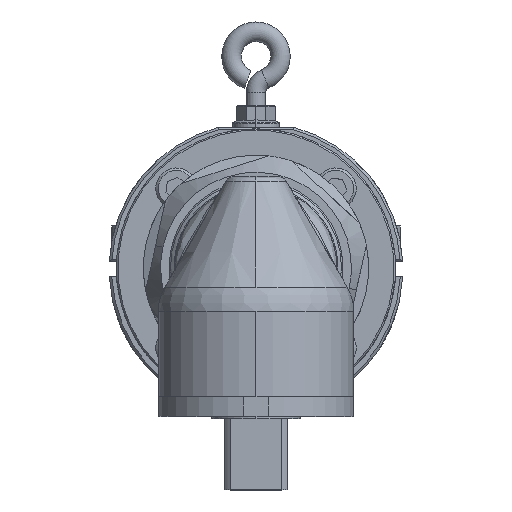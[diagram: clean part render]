
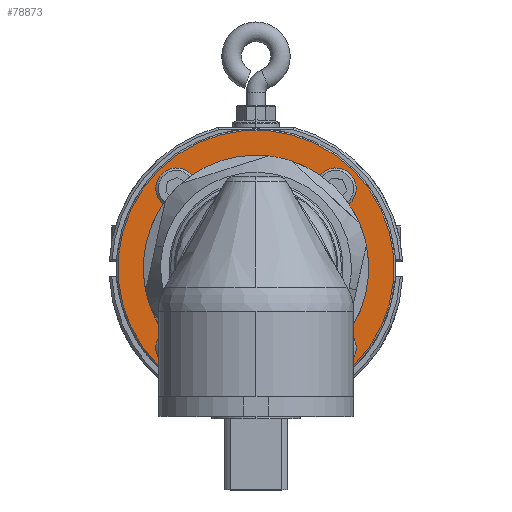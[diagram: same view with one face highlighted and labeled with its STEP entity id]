
A CAD part, top view. The second image highlights one B-rep face of the part: STEP entity #78873.
In plain terms, the highlighted planar face has unit normal (0, 0, 1).
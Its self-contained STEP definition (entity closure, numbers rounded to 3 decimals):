
#372 = CIRCLE ( 'NONE', #72841, 3.05 ) ;
#564 = AXIS2_PLACEMENT_3D ( 'NONE', #2758, #65699, #2201 ) ;
#1866 = DIRECTION ( 'NONE',  ( 0.707, 0.707, 0. ) ) ;
#2135 = DIRECTION ( 'NONE',  ( 0., 0., 1. ) ) ;
#2201 = DIRECTION ( 'NONE',  ( 0.707, 0.707, 0. ) ) ;
#2250 = VERTEX_POINT ( 'NONE', #55962 ) ;
#2758 = CARTESIAN_POINT ( 'NONE',  ( -16.263, -329.485, 256.359 ) ) ;
#3185 = DIRECTION ( 'NONE',  ( 0.707, 0.707, 0. ) ) ;
#4225 = DIRECTION ( 'NONE',  ( 0., 0., 1. ) ) ;
#4297 = PLANE ( 'NONE',  #12771 ) ;
#4667 = CARTESIAN_POINT ( 'NONE',  ( -18.42, -299.114, 256.359 ) ) ;
#5060 = ORIENTED_EDGE ( 'NONE', *, *, #73130, .T. ) ;
#6492 = EDGE_LOOP ( 'NONE', ( #32426, #8664 ) ) ;
#6942 = AXIS2_PLACEMENT_3D ( 'NONE', #21251, #33862, #46767 ) ;
#8664 = ORIENTED_EDGE ( 'NONE', *, *, #34342, .T. ) ;
#9236 = AXIS2_PLACEMENT_3D ( 'NONE', #40698, #4225, #46997 ) ;
#11140 = AXIS2_PLACEMENT_3D ( 'NONE', #60261, #34511, #40852 ) ;
#12300 = CIRCLE ( 'NONE', #564, 3.05 ) ;
#12771 = AXIS2_PLACEMENT_3D ( 'NONE', #35792, #72756, #42138 ) ;
#14483 = DIRECTION ( 'NONE',  ( 0., 0., -1. ) ) ;
#16729 = DIRECTION ( 'NONE',  ( 0., 0., -1. ) ) ;
#16803 = EDGE_CURVE ( 'NONE', #34182, #2250, #33829, .T. ) ;
#17857 = CARTESIAN_POINT ( 'NONE',  ( 19.94, -293.281, 256.359 ) ) ;
#18270 = EDGE_CURVE ( 'NONE', #20317, #64589, #372, .T. ) ;
#20317 = VERTEX_POINT ( 'NONE', #71282 ) ;
#20351 = DIRECTION ( 'NONE',  ( 0.707, 0.707, 0. ) ) ;
#21251 = CARTESIAN_POINT ( 'NONE',  ( -16.263, -296.958, 256.359 ) ) ;
#22829 = EDGE_CURVE ( 'NONE', #77201, #62445, #30913, .T. ) ;
#24248 = DIRECTION ( 'NONE',  ( 0.707, 0.707, 0. ) ) ;
#24505 = FACE_BOUND ( 'NONE', #40279, .T. ) ;
#25852 = DIRECTION ( 'NONE',  ( 0.707, 0.707, 0. ) ) ;
#26036 = VERTEX_POINT ( 'NONE', #69835 ) ;
#26829 = VERTEX_POINT ( 'NONE', #37565 ) ;
#27418 = FACE_OUTER_BOUND ( 'NONE', #75959, .T. ) ;
#27423 = AXIS2_PLACEMENT_3D ( 'NONE', #67830, #30338, #24248 ) ;
#27650 = CIRCLE ( 'NONE', #47728, 3.05 ) ;
#27666 = DIRECTION ( 'NONE',  ( 0.707, 0.707, 0. ) ) ;
#27810 = CARTESIAN_POINT ( 'NONE',  ( -14.107, -294.801, 256.359 ) ) ;
#30178 = CIRCLE ( 'NONE', #6942, 3.05 ) ;
#30338 = DIRECTION ( 'NONE',  ( 0., 0., -1. ) ) ;
#30913 = CIRCLE ( 'NONE', #64666, 28.2 ) ;
#32233 = AXIS2_PLACEMENT_3D ( 'NONE', #68880, #49986, #25852 ) ;
#32426 = ORIENTED_EDGE ( 'NONE', *, *, #56816, .T. ) ;
#33829 = CIRCLE ( 'NONE', #46596, 18. ) ;
#33862 = DIRECTION ( 'NONE',  ( 0., 0., -1. ) ) ;
#34009 = VERTEX_POINT ( 'NONE', #4667 ) ;
#34182 = VERTEX_POINT ( 'NONE', #71412 ) ;
#34342 = EDGE_CURVE ( 'NONE', #26829, #34788, #65571, .T. ) ;
#34511 = DIRECTION ( 'NONE',  ( 0., 0., -1. ) ) ;
#34788 = VERTEX_POINT ( 'NONE', #66639 ) ;
#35792 = CARTESIAN_POINT ( 'NONE',  ( 12.728, -325.949, 256.359 ) ) ;
#35912 = EDGE_CURVE ( 'NONE', #47248, #26036, #51686, .T. ) ;
#36345 = AXIS2_PLACEMENT_3D ( 'NONE', #40277, #14483, #27666 ) ;
#36873 = EDGE_LOOP ( 'NONE', ( #75415, #37599 ) ) ;
#37565 = CARTESIAN_POINT ( 'NONE',  ( 18.42, -294.801, 256.359 ) ) ;
#37599 = ORIENTED_EDGE ( 'NONE', *, *, #41878, .T. ) ;
#39960 = CIRCLE ( 'NONE', #9236, 28.2 ) ;
#40277 = CARTESIAN_POINT ( 'NONE',  ( 16.263, -329.485, 256.359 ) ) ;
#40279 = EDGE_LOOP ( 'NONE', ( #41962, #68640 ) ) ;
#40698 = CARTESIAN_POINT ( 'NONE',  ( 0., -313.221, 256.359 ) ) ;
#40735 = CARTESIAN_POINT ( 'NONE',  ( -16.263, -296.958, 256.359 ) ) ;
#40852 = DIRECTION ( 'NONE',  ( 0.707, 0.707, 0. ) ) ;
#41218 = FACE_BOUND ( 'NONE', #61845, .T. ) ;
#41878 = EDGE_CURVE ( 'NONE', #26036, #47248, #12300, .T. ) ;
#41962 = ORIENTED_EDGE ( 'NONE', *, *, #18270, .T. ) ;
#42138 = DIRECTION ( 'NONE',  ( 0.707, 0.707, 0. ) ) ;
#43828 = ORIENTED_EDGE ( 'NONE', *, *, #59844, .T. ) ;
#43960 = CARTESIAN_POINT ( 'NONE',  ( 18.42, -327.328, 256.359 ) ) ;
#44417 = DIRECTION ( 'NONE',  ( 0.707, 0.707, 0. ) ) ;
#45588 = DIRECTION ( 'NONE',  ( 0., 0., -1. ) ) ;
#46124 = ORIENTED_EDGE ( 'NONE', *, *, #22829, .T. ) ;
#46596 = AXIS2_PLACEMENT_3D ( 'NONE', #76399, #75607, #44417 ) ;
#46767 = DIRECTION ( 'NONE',  ( 0.707, 0.707, 0. ) ) ;
#46997 = DIRECTION ( 'NONE',  ( 0.707, 0.707, 0. ) ) ;
#47248 = VERTEX_POINT ( 'NONE', #48044 ) ;
#47728 = AXIS2_PLACEMENT_3D ( 'NONE', #66607, #16729, #60064 ) ;
#48044 = CARTESIAN_POINT ( 'NONE',  ( -18.42, -331.641, 256.359 ) ) ;
#48715 = VERTEX_POINT ( 'NONE', #27810 ) ;
#49376 = EDGE_CURVE ( 'NONE', #64589, #20317, #63569, .T. ) ;
#49986 = DIRECTION ( 'NONE',  ( 0., 0., -1. ) ) ;
#49989 = FACE_BOUND ( 'NONE', #36873, .T. ) ;
#49991 = EDGE_CURVE ( 'NONE', #34009, #48715, #30178, .T. ) ;
#51686 = CIRCLE ( 'NONE', #32233, 3.05 ) ;
#51842 = EDGE_LOOP ( 'NONE', ( #53732, #5060 ) ) ;
#52520 = CARTESIAN_POINT ( 'NONE',  ( 0., -313.221, 256.359 ) ) ;
#53009 = CIRCLE ( 'NONE', #72086, 3.05 ) ;
#53732 = ORIENTED_EDGE ( 'NONE', *, *, #49991, .T. ) ;
#55962 = CARTESIAN_POINT ( 'NONE',  ( 12.728, -300.493, 256.359 ) ) ;
#56816 = EDGE_CURVE ( 'NONE', #34788, #26829, #27650, .T. ) ;
#59844 = EDGE_CURVE ( 'NONE', #2250, #34182, #75385, .T. ) ;
#60064 = DIRECTION ( 'NONE',  ( 0.707, 0.707, 0. ) ) ;
#60261 = CARTESIAN_POINT ( 'NONE',  ( 0., -313.221, 256.359 ) ) ;
#60772 = FACE_BOUND ( 'NONE', #6492, .T. ) ;
#61845 = EDGE_LOOP ( 'NONE', ( #43828, #80570 ) ) ;
#62445 = VERTEX_POINT ( 'NONE', #65458 ) ;
#63569 = CIRCLE ( 'NONE', #36345, 3.05 ) ;
#64589 = VERTEX_POINT ( 'NONE', #43960 ) ;
#64666 = AXIS2_PLACEMENT_3D ( 'NONE', #52520, #2135, #1866 ) ;
#64980 = CARTESIAN_POINT ( 'NONE',  ( 16.263, -329.485, 256.359 ) ) ;
#65214 = ORIENTED_EDGE ( 'NONE', *, *, #65452, .T. ) ;
#65452 = EDGE_CURVE ( 'NONE', #62445, #77201, #39960, .T. ) ;
#65458 = CARTESIAN_POINT ( 'NONE',  ( -19.94, -333.162, 256.359 ) ) ;
#65571 = CIRCLE ( 'NONE', #27423, 3.05 ) ;
#65699 = DIRECTION ( 'NONE',  ( 0., 0., -1. ) ) ;
#66607 = CARTESIAN_POINT ( 'NONE',  ( 16.263, -296.958, 256.359 ) ) ;
#66639 = CARTESIAN_POINT ( 'NONE',  ( 14.107, -299.114, 256.359 ) ) ;
#67830 = CARTESIAN_POINT ( 'NONE',  ( 16.263, -296.958, 256.359 ) ) ;
#68640 = ORIENTED_EDGE ( 'NONE', *, *, #49376, .T. ) ;
#68880 = CARTESIAN_POINT ( 'NONE',  ( -16.263, -329.485, 256.359 ) ) ;
#69835 = CARTESIAN_POINT ( 'NONE',  ( -14.107, -327.328, 256.359 ) ) ;
#71282 = CARTESIAN_POINT ( 'NONE',  ( 14.107, -331.641, 256.359 ) ) ;
#71412 = CARTESIAN_POINT ( 'NONE',  ( -12.728, -325.949, 256.359 ) ) ;
#71663 = DIRECTION ( 'NONE',  ( 0., 0., -1. ) ) ;
#72086 = AXIS2_PLACEMENT_3D ( 'NONE', #40735, #71663, #3185 ) ;
#72531 = FACE_BOUND ( 'NONE', #51842, .T. ) ;
#72756 = DIRECTION ( 'NONE',  ( 0., 0., -1. ) ) ;
#72841 = AXIS2_PLACEMENT_3D ( 'NONE', #64980, #45588, #20351 ) ;
#73130 = EDGE_CURVE ( 'NONE', #48715, #34009, #53009, .T. ) ;
#75385 = CIRCLE ( 'NONE', #11140, 18. ) ;
#75415 = ORIENTED_EDGE ( 'NONE', *, *, #35912, .T. ) ;
#75607 = DIRECTION ( 'NONE',  ( 0., 0., -1. ) ) ;
#75959 = EDGE_LOOP ( 'NONE', ( #46124, #65214 ) ) ;
#76399 = CARTESIAN_POINT ( 'NONE',  ( 0., -313.221, 256.359 ) ) ;
#77201 = VERTEX_POINT ( 'NONE', #17857 ) ;
#78873 = ADVANCED_FACE ( 'NONE', ( #49989, #72531, #24505, #60772, #27418, #41218 ), #4297, .F. ) ;
#80570 = ORIENTED_EDGE ( 'NONE', *, *, #16803, .T. ) ;
